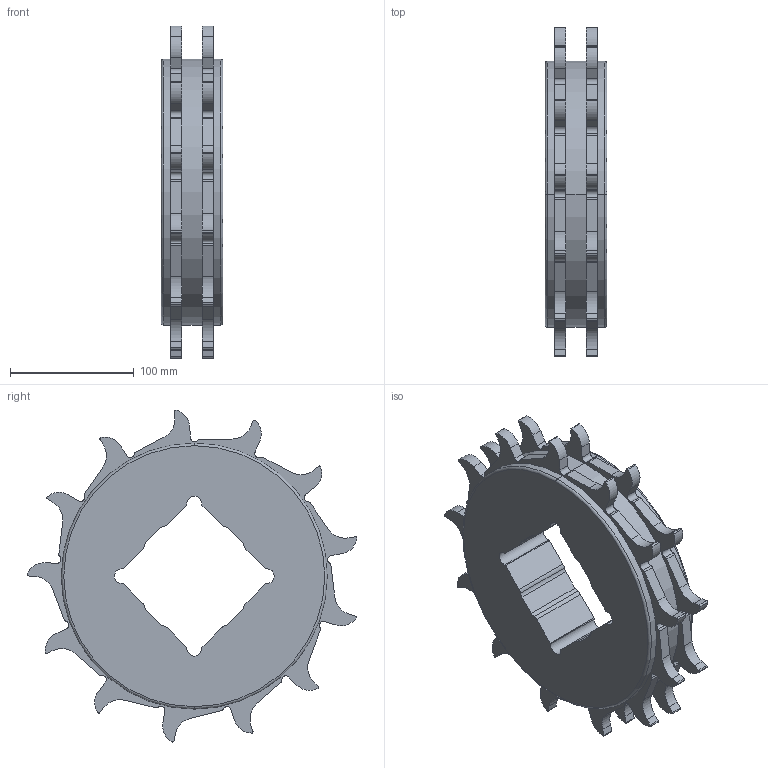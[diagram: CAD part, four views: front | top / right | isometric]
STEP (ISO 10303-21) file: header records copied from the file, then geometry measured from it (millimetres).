
FILE_DESCRIPTION((''),'2;1');
FILE_NAME('T1085','2020-11-28T14:46:41',('MTH'),(''),'CREO PARAMETRIC BY PTC INC, 2020342','CREO PARAMETRIC BY PTC INC, 2020342','');
FILE_SCHEMA(('AUTOMOTIVE_DESIGN { 1 0 10303 214 1 1 1 1 }'));
Length unit declared in the file: millimetre
Products named in the file (1): T1085
Bounding box: 50 x 266.73 x 268.4 mm (x, y, z)
Volume: 1510467.4 mm3; surface area: 194380 mm2
Topology: 1 solids, 5 shells, 495 faces, 1448 edges, 978 vertices
Faces by surface type: plane 309, cylinder 174, cone 8, torus 4
Entity records: 22952 total; most frequent: CARTESIAN_POINT 4206, DIRECTION 2937, ORIENTED_EDGE 2802, PRESENTATION_STYLE_ASSIGNMENT 1469, STYLED_ITEM 1453, CURVE_STYLE 1452, EDGE_CURVE 1401, VECTOR 1054
